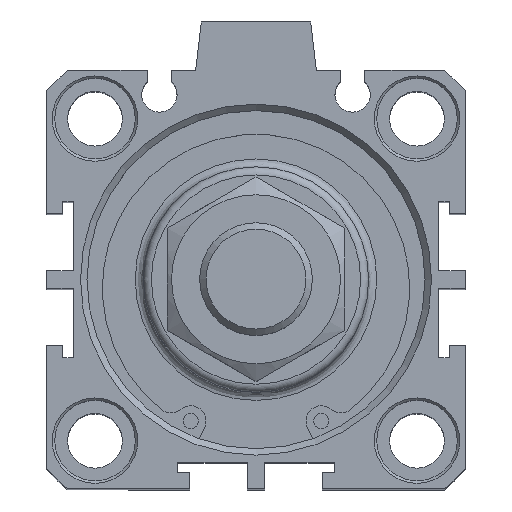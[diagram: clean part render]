
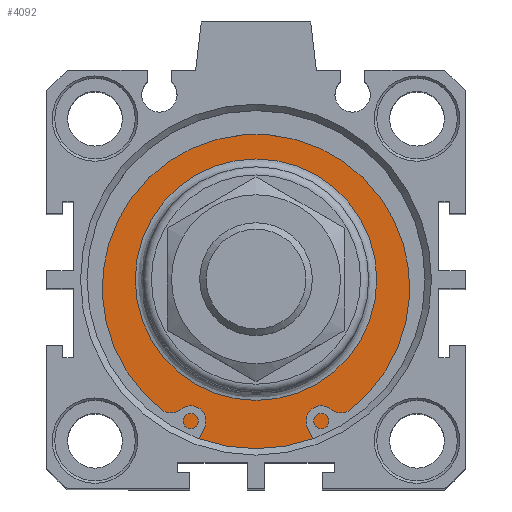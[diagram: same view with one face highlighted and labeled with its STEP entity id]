
A CAD part, top view. The second image highlights one B-rep face of the part: STEP entity #4092.
In plain terms, the highlighted planar face has unit normal (0, 0, 1).
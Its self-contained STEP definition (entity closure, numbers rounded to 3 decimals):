
#4041=CARTESIAN_POINT('',(-1.555,16.077,72.4));
#4042=VERTEX_POINT('',#4041);
#4043=CARTESIAN_POINT('',(-1.555,1.077,72.4));
#4044=DIRECTION('',(0.0,0.0,1.0));
#4045=DIRECTION('',(0.0,-1.0,0.0));
#4046=AXIS2_PLACEMENT_3D('',#4043,#4044,#4045);
#4047=CIRCLE('',#4046,15.0);
#4048=EDGE_CURVE('',#4042,#4042,#4047,.T.);
#4073=CARTESIAN_POINT('',(-1.555,18.577,72.4));
#4074=DIRECTION('',(0.0,0.0,1.0));
#4075=DIRECTION('',(1.0,0.0,0.0));
#4076=AXIS2_PLACEMENT_3D('',#4073,#4074,#4075);
#4077=PLANE('',#4076);
#4078=CARTESIAN_POINT('',(-1.555,22.077,72.4));
#4079=VERTEX_POINT('',#4078);
#4080=CARTESIAN_POINT('',(-1.555,1.077,72.4));
#4081=DIRECTION('',(0.0,0.0,-1.0));
#4082=DIRECTION('',(0.0,1.0,0.0));
#4083=AXIS2_PLACEMENT_3D('',#4080,#4081,#4082);
#4084=CIRCLE('',#4083,21.);
#4085=EDGE_CURVE('',#4079,#4079,#4084,.T.);
#4086=ORIENTED_EDGE('',*,*,#4085,.F.);
#4087=EDGE_LOOP('',(#4086));
#4088=FACE_OUTER_BOUND('',#4087,.T.);
#4089=ORIENTED_EDGE('',*,*,#4048,.F.);
#4090=EDGE_LOOP('',(#4089));
#4091=FACE_BOUND('',#4090,.T.);
#4092=ADVANCED_FACE('',(#4088,#4091),#4077,.T.);
